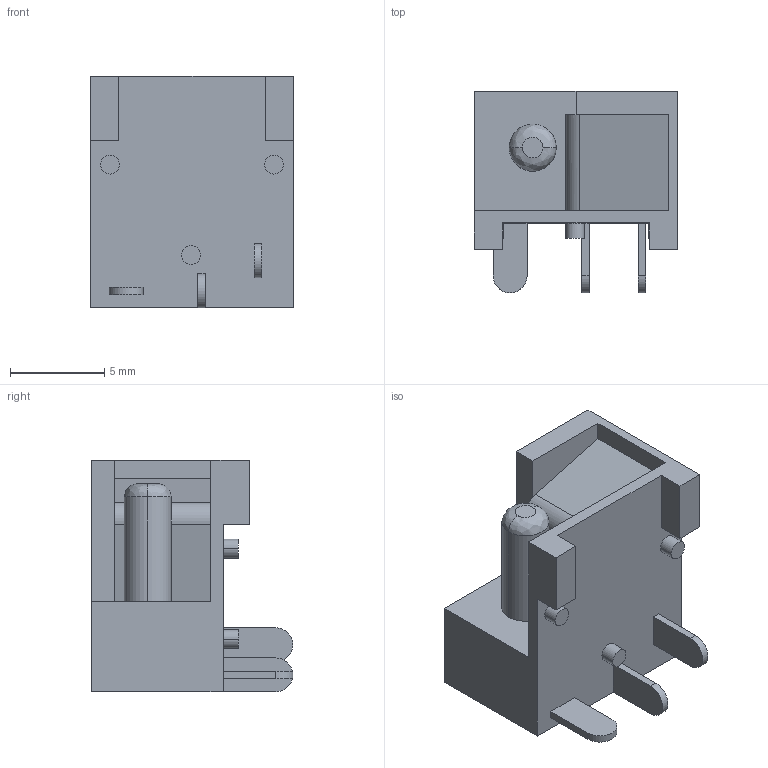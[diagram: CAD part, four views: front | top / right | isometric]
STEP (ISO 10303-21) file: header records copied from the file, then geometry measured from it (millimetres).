
FILE_DESCRIPTION (( 'STEP AP214' ), '1' );
FILE_NAME ('PJ-003B.step', '2011-05-17T09:04:15', ( 'vpeshkov' ), ( 'licard' ), 'SwSTEP 2.0', 'SolidWorks 2009', '' );
FILE_SCHEMA (( 'AUTOMOTIVE_DESIGN' ));
Length unit declared in the file: millimetre
Products named in the file (1): PJ-003B
Bounding box: 10.8 x 10.7 x 12.3 mm (x, y, z)
Volume: 690.6 mm3; surface area: 729.4 mm2
Topology: 1 solids, 1 shells, 53 faces, 128 edges, 84 vertices
Faces by surface type: plane 39, cylinder 12, bspline 2
Entity records: 1857 total; most frequent: CARTESIAN_POINT 302, DIRECTION 257, ORIENTED_EDGE 256, EDGE_CURVE 128, VECTOR 99, LINE 99, VERTEX_POINT 84, AXIS2_PLACEMENT_3D 79
